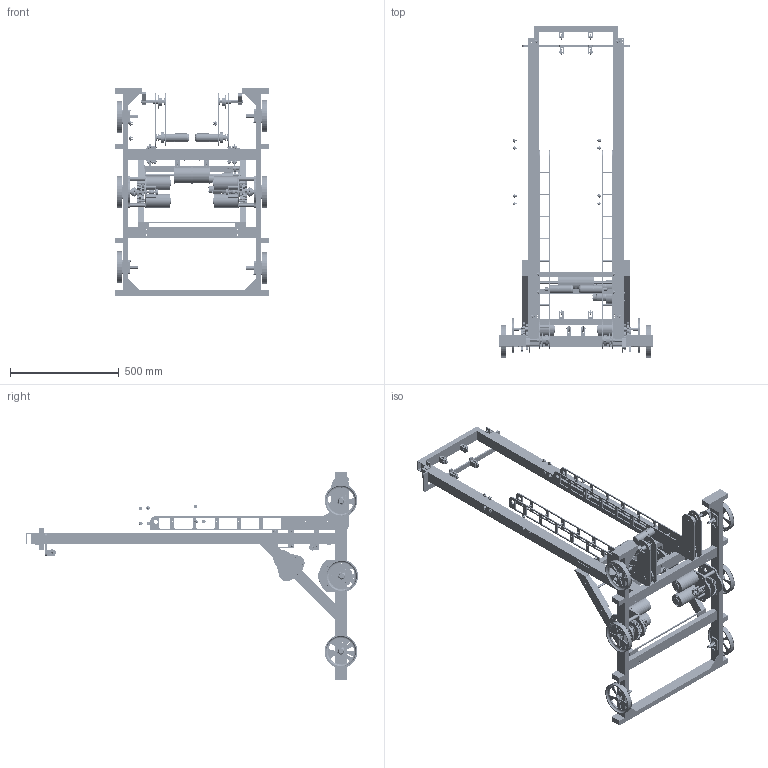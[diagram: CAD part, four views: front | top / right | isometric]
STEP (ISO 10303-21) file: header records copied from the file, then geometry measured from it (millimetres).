
FILE_DESCRIPTION (( 'STEP AP214' ), '1' );
FILE_NAME ('Daisy II Robot Assembly.STEP', '2009-10-10T23:41:28', ( 'Jon' ), ( 'None' ), 'SwSTEP 2.0', 'SolidWorks 2007', '' );
FILE_SCHEMA (( 'AUTOMOTIVE_DESIGN' ));
Length unit declared in the file: inch
Products named in the file (136): front back rail; 14T Gear_Inch - Spur gear 20DP 14T 14.5PA .375FW ---S14N8mmH2.0L0.375N; 91255A108 4-40 .375 SHBS_91255A108; .1875 bearing; 98306A110 Shifting Pin; cross member; Transmission; Rear Cross Member; Cylinder Assembly; Cylinder Bearing House; Shifter Assembly; Bumper Standoff; Front Bar; Chassis Plugs; Side Plate_Inside Side Plate; Gearbox Standoff; gusset; 96371A701 Input Spacer; Chassis Insert; 22 Tooth Sprocket v2; Dog; 35 tooth sprok; 75 Tooth Gear_Inch - Spur gear 20DP 75T 14.5PA .375FW ---S75N8mmH2.0L0.375N; Input Cluster; 15 Tooth Gear_Inch - Spur gear 20DP 15T 14.5PA .375FW ---S15N8mmH2.0L0.375N; 84 Tooth Gear_Inch - Spur gear 32DP 84T 14.5PA .375FW ---S84N8mmH2.0L0.375N; input shaft; 35 Tooth Gear_Inch - Spur gear 20DP 35T 14.5PA .375FW ---S35N8mmH2.0L0.375N; 55 Tooth Gear_Inch - Spur gear 20DP 55T 14.5PA .375FW ---S55N8mmH2.0L0.375N; outputshaft; Output Shaft Assembly; Stage U Brace; Rear Base Mount; buttress angle; butress; Cylinder Mount; Upright; Bottom Stop; Base Mount Plate; Lift Frame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
Assembly tree (310 placements, depth 6):
  Daisy II Robot Assembly
    Bearing Block Assembly  x4
      Outer Bearing House v2
      Inner Bearing House v2
    Solid BLock  x6
    97633A190 .4375 Snap Ring_97633A190  x4
    Transmission  x2
      Gearbox Standoff
      Cimm Motor Assembly
        Pinion Spacer
        CIM Motor
          10-24 UNC x 4_ Phillips Pan Head  x2
          CIM motor
        98430A132 5-16 Snap Ring_98430A132
        18 Tooth Gear_Inch - Spur gear 32DP 18T 14.5PA .375FW ---S18N8mmH2.0L0.125N
      Input Cluster
        84 Tooth Gear_Inch - Spur gear 32DP 84T 14.5PA .375FW ---S84N8mmH2.0L0.375N
        15 Tooth Gear_Inch - Spur gear 20DP 15T 14.5PA .375FW ---S15N8mmH2.0L0.375N
        input shaft
        35 Tooth Gear_Inch - Spur gear 20DP 35T 14.5PA .375FW ---S35N8mmH2.0L0.375N
      sprocket spacer
      Side Plate_Inside Side Plate
      Output Shaft Assembly
        55 Tooth Gear_Inch - Spur gear 20DP 55T 14.5PA .375FW ---S55N8mmH2.0L0.375N
        96371A701 Input Spacer  x3
        22 Tooth Sprocket v2  x2
        Dog
        outputshaft
        75 Tooth Gear_Inch - Spur gear 20DP 75T 14.5PA .375FW ---S75N8mmH2.0L0.375N
      97633A190 .4375 Snap Ring_97633A190
      Outer Bearing House v2
      Cylinder Assembly
        cylinder standoffs  x3
        Cylinder Mount
      97633A200 .50 Snap Ring_97633A200
      Shifter Assembly
        91255A108 4-40 .375 SHBS_91255A108  x3
        Cylinder Bearing House
        .1875 bearing
        98306A110 Shifting Pin
      Input Spacer
    Chassis Assembly
      Chassis Insert  x8
      Bumper Standoff  x4
      Chassis Plugs  x10
      Side Rail  x2
      front back rail
      Front Bar  x2
      cross member
      gusset  x4
      Rear Cross Member
    Lift Assembly
      roller  x8
        91255A196_91255A196
        90295A100
        60355K430_60355K43
        Bearing Mount
      Lift Frame
        Base Mount Plate
        buttress angle  x2
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Bounding box: 704.85 x 1524.17 x 952.5 mm (x, y, z)
Volume: 11315356.5 mm3; surface area: 5840055 mm2
Topology: 810 solids, 810 shells, 24843 faces, 58974 edges, 35636 vertices
Faces by surface type: cylinder 13040, cone 6372, plane 4389, sphere 584, torus 296, bspline 162
Entity records: 208582 total; most frequent: CARTESIAN_POINT 49768, DIRECTION 33936, ORIENTED_EDGE 30694, EDGE_CURVE 15347, AXIS2_PLACEMENT_3D 13588, VERTEX_POINT 9737, CIRCLE 7343, VECTOR 6760
